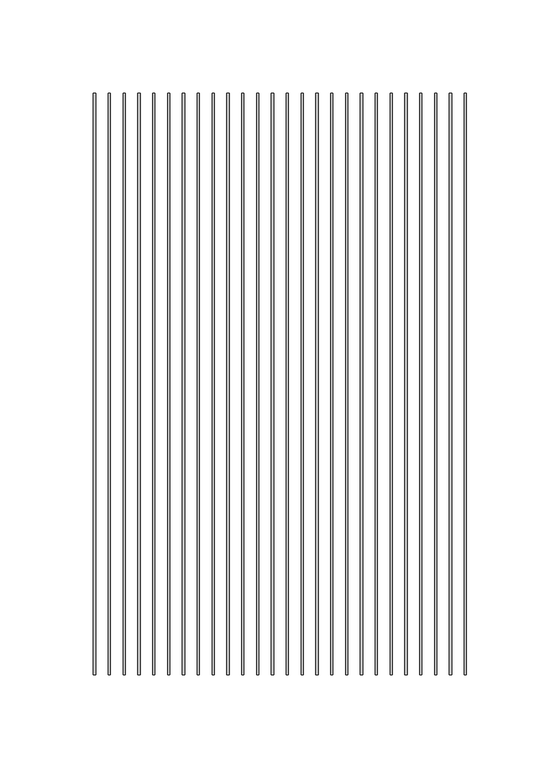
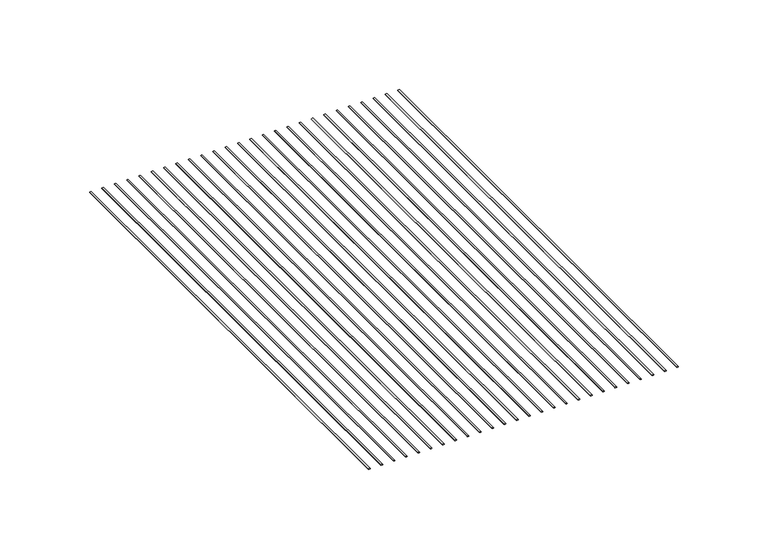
"""IFC4 building model written with IfcOpenShell, lengths in millimetres: proxy geometry, CRAi Generic Model Mesh Piece Face Based : CRAi Generic Model Mesh Piece Face Based."""

from ifc_helpers import new_model, si_unit, point, frame, origin, place, context, project, spatial, ellipse_curve, trimmed, source, transform, mapped, element, save
from ifc_brep_helpers import plane_surface, extruded_surface, advanced_brep


def generic_models_b81d245b(model_context):
    return source(origin(), model_context, "Body", "AdvancedBrep", [
        advanced_brep(
        [(-196.6515625, 155.512111, -2.5796875), (-195.4609375, 155.512111, -2.5796875), (-196.6515625, -155.512111, -2.5796875), (-195.4609375, -155.512111, -2.5796875)],
        [
            (0, 1, ellipse_curve(frame((-196.05625, 155.512111, -2.5796875), z_axis=(0.0, 1.0, 0.0), x_axis=(1.0, 0.0, 0.0)), 0.5953125, 0.1984375)),
            (1, 0, ellipse_curve(frame((-196.05625, 155.512111, -2.5796875), z_axis=(0.0, 1.0, 0.0), x_axis=(1.0, 0.0, 0.0)), 0.5953125, 0.1984375)),
            (2, 3, ellipse_curve(frame((-196.05625, -155.512111, -2.5796875), z_axis=(0.0, -1.0, 0.0), x_axis=(1.0, 0.0, 0.0)), 0.5953125, 0.1984375)),
            (3, 2, ellipse_curve(frame((-196.05625, -155.512111, -2.5796875), z_axis=(0.0, -1.0, 0.0), x_axis=(1.0, 0.0, 0.0)), 0.5953125, 0.1984375)),
            (1, 3),
            (2, 0),
        ],
        [
            plane_surface(frame((-196.05625, 155.512111, -2.5796875), z_axis=(0.0, 1.0, 0.0), x_axis=(0.0, 0.0, 1.0))),
            plane_surface(frame((-196.05625, -155.512111, -2.5796875), z_axis=(0.0, -1.0, 0.0), x_axis=(0.0, 0.0, 1.0))),
            extruded_surface(trimmed(ellipse_curve(frame((-196.05625, 155.512111, -2.5796875), z_axis=(0.0, -1.0, 0.0), x_axis=(1.0, 0.0, 0.0)), 0.5953125, 0.1984375), [point((-196.6515625, 155.512111, -2.5796875))], [point((-195.4609375, 155.512111, -2.5796875))], True, "CARTESIAN"), (0.0, -311.024222, 0.0), 311.024222),
            extruded_surface(trimmed(ellipse_curve(frame((-196.05625, 155.512111, -2.5796875), z_axis=(0.0, -1.0, 0.0), x_axis=(1.0, 0.0, 0.0)), 0.5953125, 0.1984375), [point((-195.4609375, 155.512111, -2.5796875))], [point((-196.6515625, 155.512111, -2.5796875))], True, "CARTESIAN"), (0.0, -311.024222, 0.0), 311.024222),
        ],
        [
            (0, [[1, 2]]),
            (1, [[3, 4]]),
            (2, [[5, -3, 6, -2]]),
            (3, [[-6, -4, -5, -1]]),
        ],
    ),
        advanced_brep(
        [(-188.7140625, 155.512111, -2.5796875), (-187.5234375, 155.512111, -2.5796875), (-188.7140625, -155.512111, -2.5796875), (-187.5234375, -155.512111, -2.5796875)],
        [
            (0, 1, ellipse_curve(frame((-188.11875, 155.512111, -2.5796875), z_axis=(0.0, 1.0, 0.0), x_axis=(1.0, 0.0, 0.0)), 0.5953125, 0.1984375)),
            (1, 0, ellipse_curve(frame((-188.11875, 155.512111, -2.5796875), z_axis=(0.0, 1.0, 0.0), x_axis=(1.0, 0.0, 0.0)), 0.5953125, 0.1984375)),
            (2, 3, ellipse_curve(frame((-188.11875, -155.512111, -2.5796875), z_axis=(0.0, -1.0, 0.0), x_axis=(1.0, 0.0, 0.0)), 0.5953125, 0.1984375)),
            (3, 2, ellipse_curve(frame((-188.11875, -155.512111, -2.5796875), z_axis=(0.0, -1.0, 0.0), x_axis=(1.0, 0.0, 0.0)), 0.5953125, 0.1984375)),
            (1, 3),
            (2, 0),
        ],
        [
            plane_surface(frame((-188.11875, 155.512111, -2.5796875), z_axis=(0.0, 1.0, 0.0), x_axis=(0.0, 0.0, 1.0))),
            plane_surface(frame((-188.11875, -155.512111, -2.5796875), z_axis=(0.0, -1.0, 0.0), x_axis=(0.0, 0.0, 1.0))),
            extruded_surface(trimmed(ellipse_curve(frame((-188.11875, 155.512111, -2.5796875), z_axis=(0.0, -1.0, 0.0), x_axis=(1.0, 0.0, 0.0)), 0.5953125, 0.1984375), [point((-188.7140625, 155.512111, -2.5796875))], [point((-187.5234375, 155.512111, -2.5796875))], True, "CARTESIAN"), (0.0, -311.024222, 0.0), 311.024222),
            extruded_surface(trimmed(ellipse_curve(frame((-188.11875, 155.512111, -2.5796875), z_axis=(0.0, -1.0, 0.0), x_axis=(1.0, 0.0, 0.0)), 0.5953125, 0.1984375), [point((-187.5234375, 155.512111, -2.5796875))], [point((-188.7140625, 155.512111, -2.5796875))], True, "CARTESIAN"), (0.0, -311.024222, 0.0), 311.024222),
        ],
        [
            (0, [[1, 2]]),
            (1, [[3, 4]]),
            (2, [[5, -3, 6, -2]]),
            (3, [[-6, -4, -5, -1]]),
        ],
    ),
        advanced_brep(
        [(-180.7765625, 155.512111, -2.5796875), (-179.5859375, 155.512111, -2.5796875), (-180.7765625, -155.512111, -2.5796875), (-179.5859375, -155.512111, -2.5796875)],
        [
            (0, 1, ellipse_curve(frame((-180.18125, 155.512111, -2.5796875), z_axis=(0.0, 1.0, 0.0), x_axis=(1.0, 0.0, 0.0)), 0.5953125, 0.1984375)),
            (1, 0, ellipse_curve(frame((-180.18125, 155.512111, -2.5796875), z_axis=(0.0, 1.0, 0.0), x_axis=(1.0, 0.0, 0.0)), 0.5953125, 0.1984375)),
            (2, 3, ellipse_curve(frame((-180.18125, -155.512111, -2.5796875), z_axis=(0.0, -1.0, 0.0), x_axis=(1.0, 0.0, 0.0)), 0.5953125, 0.1984375)),
            (3, 2, ellipse_curve(frame((-180.18125, -155.512111, -2.5796875), z_axis=(0.0, -1.0, 0.0), x_axis=(1.0, 0.0, 0.0)), 0.5953125, 0.1984375)),
            (1, 3),
            (2, 0),
        ],
        [
            plane_surface(frame((-180.18125, 155.512111, -2.5796875), z_axis=(0.0, 1.0, 0.0), x_axis=(0.0, 0.0, 1.0))),
            plane_surface(frame((-180.18125, -155.512111, -2.5796875), z_axis=(0.0, -1.0, 0.0), x_axis=(0.0, 0.0, 1.0))),
            extruded_surface(trimmed(ellipse_curve(frame((-180.18125, 155.512111, -2.5796875), z_axis=(0.0, -1.0, 0.0), x_axis=(1.0, 0.0, 0.0)), 0.5953125, 0.1984375), [point((-180.7765625, 155.512111, -2.5796875))], [point((-179.5859375, 155.512111, -2.5796875))], True, "CARTESIAN"), (0.0, -311.024222, 0.0), 311.024222),
            extruded_surface(trimmed(ellipse_curve(frame((-180.18125, 155.512111, -2.5796875), z_axis=(0.0, -1.0, 0.0), x_axis=(1.0, 0.0, 0.0)), 0.5953125, 0.1984375), [point((-179.5859375, 155.512111, -2.5796875))], [point((-180.7765625, 155.512111, -2.5796875))], True, "CARTESIAN"), (0.0, -311.024222, 0.0), 311.024222),
        ],
        [
            (0, [[1, 2]]),
            (1, [[3, 4]]),
            (2, [[5, -3, 6, -2]]),
            (3, [[-6, -4, -5, -1]]),
        ],
    ),
        advanced_brep(
        [(-172.8390625, 155.512111, -2.5796875), (-171.6484375, 155.512111, -2.5796875), (-172.8390625, -155.512111, -2.5796875), (-171.6484375, -155.512111, -2.5796875)],
        [
            (0, 1, ellipse_curve(frame((-172.24375, 155.512111, -2.5796875), z_axis=(0.0, 1.0, 0.0), x_axis=(1.0, 0.0, 0.0)), 0.5953125, 0.1984375)),
            (1, 0, ellipse_curve(frame((-172.24375, 155.512111, -2.5796875), z_axis=(0.0, 1.0, 0.0), x_axis=(1.0, 0.0, 0.0)), 0.5953125, 0.1984375)),
            (2, 3, ellipse_curve(frame((-172.24375, -155.512111, -2.5796875), z_axis=(0.0, -1.0, 0.0), x_axis=(1.0, 0.0, 0.0)), 0.5953125, 0.1984375)),
            (3, 2, ellipse_curve(frame((-172.24375, -155.512111, -2.5796875), z_axis=(0.0, -1.0, 0.0), x_axis=(1.0, 0.0, 0.0)), 0.5953125, 0.1984375)),
            (1, 3),
            (2, 0),
        ],
        [
            plane_surface(frame((-172.24375, 155.512111, -2.5796875), z_axis=(0.0, 1.0, 0.0), x_axis=(0.0, 0.0, 1.0))),
            plane_surface(frame((-172.24375, -155.512111, -2.5796875), z_axis=(0.0, -1.0, 0.0), x_axis=(0.0, 0.0, 1.0))),
            extruded_surface(trimmed(ellipse_curve(frame((-172.24375, 155.512111, -2.5796875), z_axis=(0.0, -1.0, 0.0), x_axis=(1.0, 0.0, 0.0)), 0.5953125, 0.1984375), [point((-172.8390625, 155.512111, -2.5796875))], [point((-171.6484375, 155.512111, -2.5796875))], True, "CARTESIAN"), (0.0, -311.024222, 0.0), 311.024222),
            extruded_surface(trimmed(ellipse_curve(frame((-172.24375, 155.512111, -2.5796875), z_axis=(0.0, -1.0, 0.0), x_axis=(1.0, 0.0, 0.0)), 0.5953125, 0.1984375), [point((-171.6484375, 155.512111, -2.5796875))], [point((-172.8390625, 155.512111, -2.5796875))], True, "CARTESIAN"), (0.0, -311.024222, 0.0), 311.024222),
        ],
        [
            (0, [[1, 2]]),
            (1, [[3, 4]]),
            (2, [[5, -3, 6, -2]]),
            (3, [[-6, -4, -5, -1]]),
        ],
    ),
        advanced_brep(
        [(-164.9015625, 155.512111, -2.5796875), (-163.7109375, 155.512111, -2.5796875), (-164.9015625, -155.512111, -2.5796875), (-163.7109375, -155.512111, -2.5796875)],
        [
            (0, 1, ellipse_curve(frame((-164.30625, 155.512111, -2.5796875), z_axis=(0.0, 1.0, 0.0), x_axis=(1.0, 0.0, 0.0)), 0.5953125, 0.1984375)),
            (1, 0, ellipse_curve(frame((-164.30625, 155.512111, -2.5796875), z_axis=(0.0, 1.0, 0.0), x_axis=(1.0, 0.0, 0.0)), 0.5953125, 0.1984375)),
            (2, 3, ellipse_curve(frame((-164.30625, -155.512111, -2.5796875), z_axis=(0.0, -1.0, 0.0), x_axis=(1.0, 0.0, 0.0)), 0.5953125, 0.1984375)),
            (3, 2, ellipse_curve(frame((-164.30625, -155.512111, -2.5796875), z_axis=(0.0, -1.0, 0.0), x_axis=(1.0, 0.0, 0.0)), 0.5953125, 0.1984375)),
            (1, 3),
            (2, 0),
        ],
        [
            plane_surface(frame((-164.30625, 155.512111, -2.5796875), z_axis=(0.0, 1.0, 0.0), x_axis=(0.0, 0.0, 1.0))),
            plane_surface(frame((-164.30625, -155.512111, -2.5796875), z_axis=(0.0, -1.0, 0.0), x_axis=(0.0, 0.0, 1.0))),
            extruded_surface(trimmed(ellipse_curve(frame((-164.30625, 155.512111, -2.5796875), z_axis=(0.0, -1.0, 0.0), x_axis=(1.0, 0.0, 0.0)), 0.5953125, 0.1984375), [point((-164.9015625, 155.512111, -2.5796875))], [point((-163.7109375, 155.512111, -2.5796875))], True, "CARTESIAN"), (0.0, -311.024222, 0.0), 311.024222),
            extruded_surface(trimmed(ellipse_curve(frame((-164.30625, 155.512111, -2.5796875), z_axis=(0.0, -1.0, 0.0), x_axis=(1.0, 0.0, 0.0)), 0.5953125, 0.1984375), [point((-163.7109375, 155.512111, -2.5796875))], [point((-164.9015625, 155.512111, -2.5796875))], True, "CARTESIAN"), (0.0, -311.024222, 0.0), 311.024222),
        ],
        [
            (0, [[1, 2]]),
            (1, [[3, 4]]),
            (2, [[5, -3, 6, -2]]),
            (3, [[-6, -4, -5, -1]]),
        ],
    ),
        advanced_brep(
        [(-156.9640625, 155.512111, -2.5796875), (-155.7734375, 155.512111, -2.5796875), (-156.9640625, -155.512111, -2.5796875), (-155.7734375, -155.512111, -2.5796875)],
        [
            (0, 1, ellipse_curve(frame((-156.36875, 155.512111, -2.5796875), z_axis=(0.0, 1.0, 0.0), x_axis=(1.0, 0.0, 0.0)), 0.5953125, 0.1984375)),
            (1, 0, ellipse_curve(frame((-156.36875, 155.512111, -2.5796875), z_axis=(0.0, 1.0, 0.0), x_axis=(1.0, 0.0, 0.0)), 0.5953125, 0.1984375)),
            (2, 3, ellipse_curve(frame((-156.36875, -155.512111, -2.5796875), z_axis=(0.0, -1.0, 0.0), x_axis=(1.0, 0.0, 0.0)), 0.5953125, 0.1984375)),
            (3, 2, ellipse_curve(frame((-156.36875, -155.512111, -2.5796875), z_axis=(0.0, -1.0, 0.0), x_axis=(1.0, 0.0, 0.0)), 0.5953125, 0.1984375)),
            (1, 3),
            (2, 0),
        ],
        [
            plane_surface(frame((-156.36875, 155.512111, -2.5796875), z_axis=(0.0, 1.0, 0.0), x_axis=(0.0, 0.0, 1.0))),
            plane_surface(frame((-156.36875, -155.512111, -2.5796875), z_axis=(0.0, -1.0, 0.0), x_axis=(0.0, 0.0, 1.0))),
            extruded_surface(trimmed(ellipse_curve(frame((-156.36875, 155.512111, -2.5796875), z_axis=(0.0, -1.0, 0.0), x_axis=(1.0, 0.0, 0.0)), 0.5953125, 0.1984375), [point((-156.9640625, 155.512111, -2.5796875))], [point((-155.7734375, 155.512111, -2.5796875))], True, "CARTESIAN"), (0.0, -311.024222, 0.0), 311.024222),
            extruded_surface(trimmed(ellipse_curve(frame((-156.36875, 155.512111, -2.5796875), z_axis=(0.0, -1.0, 0.0), x_axis=(1.0, 0.0, 0.0)), 0.5953125, 0.1984375), [point((-155.7734375, 155.512111, -2.5796875))], [point((-156.9640625, 155.512111, -2.5796875))], True, "CARTESIAN"), (0.0, -311.024222, 0.0), 311.024222),
        ],
        [
            (0, [[1, 2]]),
            (1, [[3, 4]]),
            (2, [[5, -3, 6, -2]]),
            (3, [[-6, -4, -5, -1]]),
        ],
    ),
        advanced_brep(
        [(-149.0265625, 155.512111, -2.5796875), (-147.8359375, 155.512111, -2.5796875), (-149.0265625, -155.512111, -2.5796875), (-147.8359375, -155.512111, -2.5796875)],
        [
            (0, 1, ellipse_curve(frame((-148.43125, 155.512111, -2.5796875), z_axis=(0.0, 1.0, 0.0), x_axis=(1.0, 0.0, 0.0)), 0.5953125, 0.1984375)),
            (1, 0, ellipse_curve(frame((-148.43125, 155.512111, -2.5796875), z_axis=(0.0, 1.0, 0.0), x_axis=(1.0, 0.0, 0.0)), 0.5953125, 0.1984375)),
            (2, 3, ellipse_curve(frame((-148.43125, -155.512111, -2.5796875), z_axis=(0.0, -1.0, 0.0), x_axis=(1.0, 0.0, 0.0)), 0.5953125, 0.1984375)),
            (3, 2, ellipse_curve(frame((-148.43125, -155.512111, -2.5796875), z_axis=(0.0, -1.0, 0.0), x_axis=(1.0, 0.0, 0.0)), 0.5953125, 0.1984375)),
            (1, 3),
            (2, 0),
        ],
        [
            plane_surface(frame((-148.43125, 155.512111, -2.5796875), z_axis=(0.0, 1.0, 0.0), x_axis=(0.0, 0.0, 1.0))),
            plane_surface(frame((-148.43125, -155.512111, -2.5796875), z_axis=(0.0, -1.0, 0.0), x_axis=(0.0, 0.0, 1.0))),
            extruded_surface(trimmed(ellipse_curve(frame((-148.43125, 155.512111, -2.5796875), z_axis=(0.0, -1.0, 0.0), x_axis=(1.0, 0.0, 0.0)), 0.5953125, 0.1984375), [point((-149.0265625, 155.512111, -2.5796875))], [point((-147.8359375, 155.512111, -2.5796875))], True, "CARTESIAN"), (0.0, -311.024222, 0.0), 311.024222),
            extruded_surface(trimmed(ellipse_curve(frame((-148.43125, 155.512111, -2.5796875), z_axis=(0.0, -1.0, 0.0), x_axis=(1.0, 0.0, 0.0)), 0.5953125, 0.1984375), [point((-147.8359375, 155.512111, -2.5796875))], [point((-149.0265625, 155.512111, -2.5796875))], True, "CARTESIAN"), (0.0, -311.024222, 0.0), 311.024222),
        ],
        [
            (0, [[1, 2]]),
            (1, [[3, 4]]),
            (2, [[5, -3, 6, -2]]),
            (3, [[-6, -4, -5, -1]]),
        ],
    ),
        advanced_brep(
        [(-141.0890625, 155.512111, -2.5796875), (-139.8984375, 155.512111, -2.5796875), (-141.0890625, -155.512111, -2.5796875), (-139.8984375, -155.512111, -2.5796875)],
        [
            (0, 1, ellipse_curve(frame((-140.49375, 155.512111, -2.5796875), z_axis=(0.0, 1.0, 0.0), x_axis=(1.0, 0.0, 0.0)), 0.5953125, 0.1984375)),
            (1, 0, ellipse_curve(frame((-140.49375, 155.512111, -2.5796875), z_axis=(0.0, 1.0, 0.0), x_axis=(1.0, 0.0, 0.0)), 0.5953125, 0.1984375)),
            (2, 3, ellipse_curve(frame((-140.49375, -155.512111, -2.5796875), z_axis=(0.0, -1.0, 0.0), x_axis=(1.0, 0.0, 0.0)), 0.5953125, 0.1984375)),
            (3, 2, ellipse_curve(frame((-140.49375, -155.512111, -2.5796875), z_axis=(0.0, -1.0, 0.0), x_axis=(1.0, 0.0, 0.0)), 0.5953125, 0.1984375)),
            (1, 3),
            (2, 0),
        ],
        [
            plane_surface(frame((-140.49375, 155.512111, -2.5796875), z_axis=(0.0, 1.0, 0.0), x_axis=(0.0, 0.0, 1.0))),
            plane_surface(frame((-140.49375, -155.512111, -2.5796875), z_axis=(0.0, -1.0, 0.0), x_axis=(0.0, 0.0, 1.0))),
            extruded_surface(trimmed(ellipse_curve(frame((-140.49375, 155.512111, -2.5796875), z_axis=(0.0, -1.0, 0.0), x_axis=(1.0, 0.0, 0.0)), 0.5953125, 0.1984375), [point((-141.0890625, 155.512111, -2.5796875))], [point((-139.8984375, 155.512111, -2.5796875))], True, "CARTESIAN"), (0.0, -311.024222, 0.0), 311.024222),
            extruded_surface(trimmed(ellipse_curve(frame((-140.49375, 155.512111, -2.5796875), z_axis=(0.0, -1.0, 0.0), x_axis=(1.0, 0.0, 0.0)), 0.5953125, 0.1984375), [point((-139.8984375, 155.512111, -2.5796875))], [point((-141.0890625, 155.512111, -2.5796875))], True, "CARTESIAN"), (0.0, -311.024222, 0.0), 311.024222),
        ],
        [
            (0, [[1, 2]]),
            (1, [[3, 4]]),
            (2, [[5, -3, 6, -2]]),
            (3, [[-6, -4, -5, -1]]),
        ],
    ),
        advanced_brep(
        [(-133.1515625, 155.512111, -2.5796875), (-131.9609375, 155.512111, -2.5796875), (-133.1515625, -155.512111, -2.5796875), (-131.9609375, -155.512111, -2.5796875)],
        [
            (0, 1, ellipse_curve(frame((-132.55625, 155.512111, -2.5796875), z_axis=(0.0, 1.0, 0.0), x_axis=(1.0, 0.0, 0.0)), 0.5953125, 0.1984375)),
            (1, 0, ellipse_curve(frame((-132.55625, 155.512111, -2.5796875), z_axis=(0.0, 1.0, 0.0), x_axis=(1.0, 0.0, 0.0)), 0.5953125, 0.1984375)),
            (2, 3, ellipse_curve(frame((-132.55625, -155.512111, -2.5796875), z_axis=(0.0, -1.0, 0.0), x_axis=(1.0, 0.0, 0.0)), 0.5953125, 0.1984375)),
            (3, 2, ellipse_curve(frame((-132.55625, -155.512111, -2.5796875), z_axis=(0.0, -1.0, 0.0), x_axis=(1.0, 0.0, 0.0)), 0.5953125, 0.1984375)),
            (1, 3),
            (2, 0),
        ],
        [
            plane_surface(frame((-132.55625, 155.512111, -2.5796875), z_axis=(0.0, 1.0, 0.0), x_axis=(0.0, 0.0, 1.0))),
            plane_surface(frame((-132.55625, -155.512111, -2.5796875), z_axis=(0.0, -1.0, 0.0), x_axis=(0.0, 0.0, 1.0))),
            extruded_surface(trimmed(ellipse_curve(frame((-132.55625, 155.512111, -2.5796875), z_axis=(0.0, -1.0, 0.0), x_axis=(1.0, 0.0, 0.0)), 0.5953125, 0.1984375), [point((-133.1515625, 155.512111, -2.5796875))], [point((-131.9609375, 155.512111, -2.5796875))], True, "CARTESIAN"), (0.0, -311.024222, 0.0), 311.024222),
            extruded_surface(trimmed(ellipse_curve(frame((-132.55625, 155.512111, -2.5796875), z_axis=(0.0, -1.0, 0.0), x_axis=(1.0, 0.0, 0.0)), 0.5953125, 0.1984375), [point((-131.9609375, 155.512111, -2.5796875))], [point((-133.1515625, 155.512111, -2.5796875))], True, "CARTESIAN"), (0.0, -311.024222, 0.0), 311.024222),
        ],
        [
            (0, [[1, 2]]),
            (1, [[3, 4]]),
            (2, [[5, -3, 6, -2]]),
            (3, [[-6, -4, -5, -1]]),
        ],
    ),
        advanced_brep(
        [(-125.2140625, 155.512111, -2.5796875), (-124.0234375, 155.512111, -2.5796875), (-125.2140625, -155.512111, -2.5796875), (-124.0234375, -155.512111, -2.5796875)],
        [
            (0, 1, ellipse_curve(frame((-124.61875, 155.512111, -2.5796875), z_axis=(0.0, 1.0, 0.0), x_axis=(1.0, 0.0, 0.0)), 0.5953125, 0.1984375)),
            (1, 0, ellipse_curve(frame((-124.61875, 155.512111, -2.5796875), z_axis=(0.0, 1.0, 0.0), x_axis=(1.0, 0.0, 0.0)), 0.5953125, 0.1984375)),
            (2, 3, ellipse_curve(frame((-124.61875, -155.512111, -2.5796875), z_axis=(0.0, -1.0, 0.0), x_axis=(1.0, 0.0, 0.0)), 0.5953125, 0.1984375)),
            (3, 2, ellipse_curve(frame((-124.61875, -155.512111, -2.5796875), z_axis=(0.0, -1.0, 0.0), x_axis=(1.0, 0.0, 0.0)), 0.5953125, 0.1984375)),
            (1, 3),
            (2, 0),
        ],
        [
            plane_surface(frame((-124.61875, 155.512111, -2.5796875), z_axis=(0.0, 1.0, 0.0), x_axis=(0.0, 0.0, 1.0))),
            plane_surface(frame((-124.61875, -155.512111, -2.5796875), z_axis=(0.0, -1.0, 0.0), x_axis=(0.0, 0.0, 1.0))),
            extruded_surface(trimmed(ellipse_curve(frame((-124.61875, 155.512111, -2.5796875), z_axis=(0.0, -1.0, 0.0), x_axis=(1.0, 0.0, 0.0)), 0.5953125, 0.1984375), [point((-125.2140625, 155.512111, -2.5796875))], [point((-124.0234375, 155.512111, -2.5796875))], True, "CARTESIAN"), (0.0, -311.024222, 0.0), 311.024222),
            extruded_surface(trimmed(ellipse_curve(frame((-124.61875, 155.512111, -2.5796875), z_axis=(0.0, -1.0, 0.0), x_axis=(1.0, 0.0, 0.0)), 0.5953125, 0.1984375), [point((-124.0234375, 155.512111, -2.5796875))], [point((-125.2140625, 155.512111, -2.5796875))], True, "CARTESIAN"), (0.0, -311.024222, 0.0), 311.024222),
        ],
        [
            (0, [[1, 2]]),
            (1, [[3, 4]]),
            (2, [[5, -3, 6, -2]]),
            (3, [[-6, -4, -5, -1]]),
        ],
    ),
        advanced_brep(
        [(-117.2765625, 155.512111, -2.5796875), (-116.0859375, 155.512111, -2.5796875), (-117.2765625, -155.512111, -2.5796875), (-116.0859375, -155.512111, -2.5796875)],
        [
            (0, 1, ellipse_curve(frame((-116.68125, 155.512111, -2.5796875), z_axis=(0.0, 1.0, 0.0), x_axis=(1.0, 0.0, 0.0)), 0.5953125, 0.1984375)),
            (1, 0, ellipse_curve(frame((-116.68125, 155.512111, -2.5796875), z_axis=(0.0, 1.0, 0.0), x_axis=(1.0, 0.0, 0.0)), 0.5953125, 0.1984375)),
            (2, 3, ellipse_curve(frame((-116.68125, -155.512111, -2.5796875), z_axis=(0.0, -1.0, 0.0), x_axis=(1.0, 0.0, 0.0)), 0.5953125, 0.1984375)),
            (3, 2, ellipse_curve(frame((-116.68125, -155.512111, -2.5796875), z_axis=(0.0, -1.0, 0.0), x_axis=(1.0, 0.0, 0.0)), 0.5953125, 0.1984375)),
            (1, 3),
            (2, 0),
        ],
        [
            plane_surface(frame((-116.68125, 155.512111, -2.5796875), z_axis=(0.0, 1.0, 0.0), x_axis=(0.0, 0.0, 1.0))),
            plane_surface(frame((-116.68125, -155.512111, -2.5796875), z_axis=(0.0, -1.0, 0.0), x_axis=(0.0, 0.0, 1.0))),
            extruded_surface(trimmed(ellipse_curve(frame((-116.68125, 155.512111, -2.5796875), z_axis=(0.0, -1.0, 0.0), x_axis=(1.0, 0.0, 0.0)), 0.5953125, 0.1984375), [point((-117.2765625, 155.512111, -2.5796875))], [point((-116.0859375, 155.512111, -2.5796875))], True, "CARTESIAN"), (0.0, -311.024222, 0.0), 311.024222),
            extruded_surface(trimmed(ellipse_curve(frame((-116.68125, 155.512111, -2.5796875), z_axis=(0.0, -1.0, 0.0), x_axis=(1.0, 0.0, 0.0)), 0.5953125, 0.1984375), [point((-116.0859375, 155.512111, -2.5796875))], [point((-117.2765625, 155.512111, -2.5796875))], True, "CARTESIAN"), (0.0, -311.024222, 0.0), 311.024222),
        ],
        [
            (0, [[1, 2]]),
            (1, [[3, 4]]),
            (2, [[5, -3, 6, -2]]),
            (3, [[-6, -4, -5, -1]]),
        ],
    ),
        advanced_brep(
        [(-109.3390625, 155.512111, -2.5796875), (-108.1484375, 155.512111, -2.5796875), (-109.3390625, -155.512111, -2.5796875), (-108.1484375, -155.512111, -2.5796875)],
        [
            (0, 1, ellipse_curve(frame((-108.74375, 155.512111, -2.5796875), z_axis=(0.0, 1.0, 0.0), x_axis=(1.0, 0.0, 0.0)), 0.5953125, 0.1984375)),
            (1, 0, ellipse_curve(frame((-108.74375, 155.512111, -2.5796875), z_axis=(0.0, 1.0, 0.0), x_axis=(1.0, 0.0, 0.0)), 0.5953125, 0.1984375)),
            (2, 3, ellipse_curve(frame((-108.74375, -155.512111, -2.5796875), z_axis=(0.0, -1.0, 0.0), x_axis=(1.0, 0.0, 0.0)), 0.5953125, 0.1984375)),
            (3, 2, ellipse_curve(frame((-108.74375, -155.512111, -2.5796875), z_axis=(0.0, -1.0, 0.0), x_axis=(1.0, 0.0, 0.0)), 0.5953125, 0.1984375)),
            (1, 3),
            (2, 0),
        ],
        [
            plane_surface(frame((-108.74375, 155.512111, -2.5796875), z_axis=(0.0, 1.0, 0.0), x_axis=(0.0, 0.0, 1.0))),
            plane_surface(frame((-108.74375, -155.512111, -2.5796875), z_axis=(0.0, -1.0, 0.0), x_axis=(0.0, 0.0, 1.0))),
            extruded_surface(trimmed(ellipse_curve(frame((-108.74375, 155.512111, -2.5796875), z_axis=(0.0, -1.0, 0.0), x_axis=(1.0, 0.0, 0.0)), 0.5953125, 0.1984375), [point((-109.3390625, 155.512111, -2.5796875))], [point((-108.1484375, 155.512111, -2.5796875))], True, "CARTESIAN"), (0.0, -311.024222, 0.0), 311.024222),
            extruded_surface(trimmed(ellipse_curve(frame((-108.74375, 155.512111, -2.5796875), z_axis=(0.0, -1.0, 0.0), x_axis=(1.0, 0.0, 0.0)), 0.5953125, 0.1984375), [point((-108.1484375, 155.512111, -2.5796875))], [point((-109.3390625, 155.512111, -2.5796875))], True, "CARTESIAN"), (0.0, -311.024222, 0.0), 311.024222),
        ],
        [
            (0, [[1, 2]]),
            (1, [[3, 4]]),
            (2, [[5, -3, 6, -2]]),
            (3, [[-6, -4, -5, -1]]),
        ],
    ),
        advanced_brep(
        [(-101.4015625, 155.512111, -2.5796875), (-100.2109375, 155.512111, -2.5796875), (-101.4015625, -155.512111, -2.5796875), (-100.2109375, -155.512111, -2.5796875)],
        [
            (0, 1, ellipse_curve(frame((-100.80625, 155.512111, -2.5796875), z_axis=(0.0, 1.0, 0.0), x_axis=(1.0, 0.0, 0.0)), 0.5953125, 0.1984375)),
            (1, 0, ellipse_curve(frame((-100.80625, 155.512111, -2.5796875), z_axis=(0.0, 1.0, 0.0), x_axis=(1.0, 0.0, 0.0)), 0.5953125, 0.1984375)),
            (2, 3, ellipse_curve(frame((-100.80625, -155.512111, -2.5796875), z_axis=(0.0, -1.0, 0.0), x_axis=(1.0, 0.0, 0.0)), 0.5953125, 0.1984375)),
            (3, 2, ellipse_curve(frame((-100.80625, -155.512111, -2.5796875), z_axis=(0.0, -1.0, 0.0), x_axis=(1.0, 0.0, 0.0)), 0.5953125, 0.1984375)),
            (1, 3),
            (2, 0),
        ],
        [
            plane_surface(frame((-100.80625, 155.512111, -2.5796875), z_axis=(0.0, 1.0, 0.0), x_axis=(0.0, 0.0, 1.0))),
            plane_surface(frame((-100.80625, -155.512111, -2.5796875), z_axis=(0.0, -1.0, 0.0), x_axis=(0.0, 0.0, 1.0))),
            extruded_surface(trimmed(ellipse_curve(frame((-100.80625, 155.512111, -2.5796875), z_axis=(0.0, -1.0, 0.0), x_axis=(1.0, 0.0, 0.0)), 0.5953125, 0.1984375), [point((-101.4015625, 155.512111, -2.5796875))], [point((-100.2109375, 155.512111, -2.5796875))], True, "CARTESIAN"), (0.0, -311.024222, 0.0), 311.024222),
            extruded_surface(trimmed(ellipse_curve(frame((-100.80625, 155.512111, -2.5796875), z_axis=(0.0, -1.0, 0.0), x_axis=(1.0, 0.0, 0.0)), 0.5953125, 0.1984375), [point((-100.2109375, 155.512111, -2.5796875))], [point((-101.4015625, 155.512111, -2.5796875))], True, "CARTESIAN"), (0.0, -311.024222, 0.0), 311.024222),
        ],
        [
            (0, [[1, 2]]),
            (1, [[3, 4]]),
            (2, [[5, -3, 6, -2]]),
            (3, [[-6, -4, -5, -1]]),
        ],
    ),
        advanced_brep(
        [(-93.4640625, 155.512111, -2.5796875), (-92.2734375, 155.512111, -2.5796875), (-93.4640625, -155.512111, -2.5796875), (-92.2734375, -155.512111, -2.5796875)],
        [
            (0, 1, ellipse_curve(frame((-92.86875, 155.512111, -2.5796875), z_axis=(0.0, 1.0, 0.0), x_axis=(1.0, 0.0, 0.0)), 0.5953125, 0.1984375)),
            (1, 0, ellipse_curve(frame((-92.86875, 155.512111, -2.5796875), z_axis=(0.0, 1.0, 0.0), x_axis=(1.0, 0.0, 0.0)), 0.5953125, 0.1984375)),
            (2, 3, ellipse_curve(frame((-92.86875, -155.512111, -2.5796875), z_axis=(0.0, -1.0, 0.0), x_axis=(1.0, 0.0, 0.0)), 0.5953125, 0.1984375)),
            (3, 2, ellipse_curve(frame((-92.86875, -155.512111, -2.5796875), z_axis=(0.0, -1.0, 0.0), x_axis=(1.0, 0.0, 0.0)), 0.5953125, 0.1984375)),
            (1, 3),
            (2, 0),
        ],
        [
            plane_surface(frame((-92.86875, 155.512111, -2.5796875), z_axis=(0.0, 1.0, 0.0), x_axis=(0.0, 0.0, 1.0))),
            plane_surface(frame((-92.86875, -155.512111, -2.5796875), z_axis=(0.0, -1.0, 0.0), x_axis=(0.0, 0.0, 1.0))),
            extruded_surface(trimmed(ellipse_curve(frame((-92.86875, 155.512111, -2.5796875), z_axis=(0.0, -1.0, 0.0), x_axis=(1.0, 0.0, 0.0)), 0.5953125, 0.1984375), [point((-93.4640625, 155.512111, -2.5796875))], [point((-92.2734375, 155.512111, -2.5796875))], True, "CARTESIAN"), (0.0, -311.024222, 0.0), 311.024222),
            extruded_surface(trimmed(ellipse_curve(frame((-92.86875, 155.512111, -2.5796875), z_axis=(0.0, -1.0, 0.0), x_axis=(1.0, 0.0, 0.0)), 0.5953125, 0.1984375), [point((-92.2734375, 155.512111, -2.5796875))], [point((-93.4640625, 155.512111, -2.5796875))], True, "CARTESIAN"), (0.0, -311.024222, 0.0), 311.024222),
        ],
        [
            (0, [[1, 2]]),
            (1, [[3, 4]]),
            (2, [[5, -3, 6, -2]]),
            (3, [[-6, -4, -5, -1]]),
        ],
    ),
        advanced_brep(
        [(-85.5265625, 155.512111, -2.5796875), (-84.3359375, 155.512111, -2.5796875), (-85.5265625, -155.512111, -2.5796875), (-84.3359375, -155.512111, -2.5796875)],
        [
            (0, 1, ellipse_curve(frame((-84.93125, 155.512111, -2.5796875), z_axis=(0.0, 1.0, 0.0), x_axis=(1.0, 0.0, 0.0)), 0.5953125, 0.1984375)),
            (1, 0, ellipse_curve(frame((-84.93125, 155.512111, -2.5796875), z_axis=(0.0, 1.0, 0.0), x_axis=(1.0, 0.0, 0.0)), 0.5953125, 0.1984375)),
            (2, 3, ellipse_curve(frame((-84.93125, -155.512111, -2.5796875), z_axis=(0.0, -1.0, 0.0), x_axis=(1.0, 0.0, 0.0)), 0.5953125, 0.1984375)),
            (3, 2, ellipse_curve(frame((-84.93125, -155.512111, -2.5796875), z_axis=(0.0, -1.0, 0.0), x_axis=(1.0, 0.0, 0.0)), 0.5953125, 0.1984375)),
            (1, 3),
            (2, 0),
        ],
        [
            plane_surface(frame((-84.93125, 155.512111, -2.5796875), z_axis=(0.0, 1.0, 0.0), x_axis=(0.0, 0.0, 1.0))),
            plane_surface(frame((-84.93125, -155.512111, -2.5796875), z_axis=(0.0, -1.0, 0.0), x_axis=(0.0, 0.0, 1.0))),
            extruded_surface(trimmed(ellipse_curve(frame((-84.93125, 155.512111, -2.5796875), z_axis=(0.0, -1.0, 0.0), x_axis=(1.0, 0.0, 0.0)), 0.5953125, 0.1984375), [point((-85.5265625, 155.512111, -2.5796875))], [point((-84.3359375, 155.512111, -2.5796875))], True, "CARTESIAN"), (0.0, -311.024222, 0.0), 311.024222),
            extruded_surface(trimmed(ellipse_curve(frame((-84.93125, 155.512111, -2.5796875), z_axis=(0.0, -1.0, 0.0), x_axis=(1.0, 0.0, 0.0)), 0.5953125, 0.1984375), [point((-84.3359375, 155.512111, -2.5796875))], [point((-85.5265625, 155.512111, -2.5796875))], True, "CARTESIAN"), (0.0, -311.024222, 0.0), 311.024222),
        ],
        [
            (0, [[1, 2]]),
            (1, [[3, 4]]),
            (2, [[5, -3, 6, -2]]),
            (3, [[-6, -4, -5, -1]]),
        ],
    ),
        advanced_brep(
        [(-77.5890625, 155.512111, -2.5796875), (-76.3984375, 155.512111, -2.5796875), (-77.5890625, -155.512111, -2.5796875), (-76.3984375, -155.512111, -2.5796875)],
        [
            (0, 1, ellipse_curve(frame((-76.99375, 155.512111, -2.5796875), z_axis=(0.0, 1.0, 0.0), x_axis=(1.0, 0.0, 0.0)), 0.5953125, 0.1984375)),
            (1, 0, ellipse_curve(frame((-76.99375, 155.512111, -2.5796875), z_axis=(0.0, 1.0, 0.0), x_axis=(1.0, 0.0, 0.0)), 0.5953125, 0.1984375)),
            (2, 3, ellipse_curve(frame((-76.99375, -155.512111, -2.5796875), z_axis=(0.0, -1.0, 0.0), x_axis=(1.0, 0.0, 0.0)), 0.5953125, 0.1984375)),
            (3, 2, ellipse_curve(frame((-76.99375, -155.512111, -2.5796875), z_axis=(0.0, -1.0, 0.0), x_axis=(1.0, 0.0, 0.0)), 0.5953125, 0.1984375)),
            (1, 3),
            (2, 0),
        ],
        [
            plane_surface(frame((-76.99375, 155.512111, -2.5796875), z_axis=(0.0, 1.0, 0.0), x_axis=(0.0, 0.0, 1.0))),
            plane_surface(frame((-76.99375, -155.512111, -2.5796875), z_axis=(0.0, -1.0, 0.0), x_axis=(0.0, 0.0, 1.0))),
            extruded_surface(trimmed(ellipse_curve(frame((-76.99375, 155.512111, -2.5796875), z_axis=(0.0, -1.0, 0.0), x_axis=(1.0, 0.0, 0.0)), 0.5953125, 0.1984375), [point((-77.5890625, 155.512111, -2.5796875))], [point((-76.3984375, 155.512111, -2.5796875))], True, "CARTESIAN"), (0.0, -311.024222, 0.0), 311.024222),
            extruded_surface(trimmed(ellipse_curve(frame((-76.99375, 155.512111, -2.5796875), z_axis=(0.0, -1.0, 0.0), x_axis=(1.0, 0.0, 0.0)), 0.5953125, 0.1984375), [point((-76.3984375, 155.512111, -2.5796875))], [point((-77.5890625, 155.512111, -2.5796875))], True, "CARTESIAN"), (0.0, -311.024222, 0.0), 311.024222),
        ],
        [
            (0, [[1, 2]]),
            (1, [[3, 4]]),
            (2, [[5, -3, 6, -2]]),
            (3, [[-6, -4, -5, -1]]),
        ],
    ),
        advanced_brep(
        [(-69.6515625, 155.512111, -2.5796875), (-68.4609375, 155.512111, -2.5796875), (-69.6515625, -155.512111, -2.5796875), (-68.4609375, -155.512111, -2.5796875)],
        [
            (0, 1, ellipse_curve(frame((-69.05625, 155.512111, -2.5796875), z_axis=(0.0, 1.0, 0.0), x_axis=(1.0, 0.0, 0.0)), 0.5953125, 0.1984375)),
            (1, 0, ellipse_curve(frame((-69.05625, 155.512111, -2.5796875), z_axis=(0.0, 1.0, 0.0), x_axis=(1.0, 0.0, 0.0)), 0.5953125, 0.1984375)),
            (2, 3, ellipse_curve(frame((-69.05625, -155.512111, -2.5796875), z_axis=(0.0, -1.0, 0.0), x_axis=(1.0, 0.0, 0.0)), 0.5953125, 0.1984375)),
            (3, 2, ellipse_curve(frame((-69.05625, -155.512111, -2.5796875), z_axis=(0.0, -1.0, 0.0), x_axis=(1.0, 0.0, 0.0)), 0.5953125, 0.1984375)),
            (1, 3),
            (2, 0),
        ],
        [
            plane_surface(frame((-69.05625, 155.512111, -2.5796875), z_axis=(0.0, 1.0, 0.0), x_axis=(0.0, 0.0, 1.0))),
            plane_surface(frame((-69.05625, -155.512111, -2.5796875), z_axis=(0.0, -1.0, 0.0), x_axis=(0.0, 0.0, 1.0))),
            extruded_surface(trimmed(ellipse_curve(frame((-69.05625, 155.512111, -2.5796875), z_axis=(0.0, -1.0, 0.0), x_axis=(1.0, 0.0, 0.0)), 0.5953125, 0.1984375), [point((-69.6515625, 155.512111, -2.5796875))], [point((-68.4609375, 155.512111, -2.5796875))], True, "CARTESIAN"), (0.0, -311.024222, 0.0), 311.024222),
            extruded_surface(trimmed(ellipse_curve(frame((-69.05625, 155.512111, -2.5796875), z_axis=(0.0, -1.0, 0.0), x_axis=(1.0, 0.0, 0.0)), 0.5953125, 0.1984375), [point((-68.4609375, 155.512111, -2.5796875))], [point((-69.6515625, 155.512111, -2.5796875))], True, "CARTESIAN"), (0.0, -311.024222, 0.0), 311.024222),
        ],
        [
            (0, [[1, 2]]),
            (1, [[3, 4]]),
            (2, [[5, -3, 6, -2]]),
            (3, [[-6, -4, -5, -1]]),
        ],
    ),
        advanced_brep(
        [(-61.7140625, 155.512111, -2.5796875), (-60.5234375, 155.512111, -2.5796875), (-61.7140625, -155.512111, -2.5796875), (-60.5234375, -155.512111, -2.5796875)],
        [
            (0, 1, ellipse_curve(frame((-61.11875, 155.512111, -2.5796875), z_axis=(0.0, 1.0, 0.0), x_axis=(1.0, 0.0, 0.0)), 0.5953125, 0.1984375)),
            (1, 0, ellipse_curve(frame((-61.11875, 155.512111, -2.5796875), z_axis=(0.0, 1.0, 0.0), x_axis=(1.0, 0.0, 0.0)), 0.5953125, 0.1984375)),
            (2, 3, ellipse_curve(frame((-61.11875, -155.512111, -2.5796875), z_axis=(0.0, -1.0, 0.0), x_axis=(1.0, 0.0, 0.0)), 0.5953125, 0.1984375)),
            (3, 2, ellipse_curve(frame((-61.11875, -155.512111, -2.5796875), z_axis=(0.0, -1.0, 0.0), x_axis=(1.0, 0.0, 0.0)), 0.5953125, 0.1984375)),
            (1, 3),
            (2, 0),
        ],
        [
            plane_surface(frame((-61.11875, 155.512111, -2.5796875), z_axis=(0.0, 1.0, 0.0), x_axis=(0.0, 0.0, 1.0))),
            plane_surface(frame((-61.11875, -155.512111, -2.5796875), z_axis=(0.0, -1.0, 0.0), x_axis=(0.0, 0.0, 1.0))),
            extruded_surface(trimmed(ellipse_curve(frame((-61.11875, 155.512111, -2.5796875), z_axis=(0.0, -1.0, 0.0), x_axis=(1.0, 0.0, 0.0)), 0.5953125, 0.1984375), [point((-61.7140625, 155.512111, -2.5796875))], [point((-60.5234375, 155.512111, -2.5796875))], True, "CARTESIAN"), (0.0, -311.024222, 0.0), 311.024222),
            extruded_surface(trimmed(ellipse_curve(frame((-61.11875, 155.512111, -2.5796875), z_axis=(0.0, -1.0, 0.0), x_axis=(1.0, 0.0, 0.0)), 0.5953125, 0.1984375), [point((-60.5234375, 155.512111, -2.5796875))], [point((-61.7140625, 155.512111, -2.5796875))], True, "CARTESIAN"), (0.0, -311.024222, 0.0), 311.024222),
        ],
        [
            (0, [[1, 2]]),
            (1, [[3, 4]]),
            (2, [[5, -3, 6, -2]]),
            (3, [[-6, -4, -5, -1]]),
        ],
    ),
        advanced_brep(
        [(-53.7765625, 155.512111, -2.5796875), (-52.5859375, 155.512111, -2.5796875), (-53.7765625, -155.512111, -2.5796875), (-52.5859375, -155.512111, -2.5796875)],
        [
            (0, 1, ellipse_curve(frame((-53.18125, 155.512111, -2.5796875), z_axis=(0.0, 1.0, 0.0), x_axis=(1.0, 0.0, 0.0)), 0.5953125, 0.1984375)),
            (1, 0, ellipse_curve(frame((-53.18125, 155.512111, -2.5796875), z_axis=(0.0, 1.0, 0.0), x_axis=(1.0, 0.0, 0.0)), 0.5953125, 0.1984375)),
            (2, 3, ellipse_curve(frame((-53.18125, -155.512111, -2.5796875), z_axis=(0.0, -1.0, 0.0), x_axis=(1.0, 0.0, 0.0)), 0.5953125, 0.1984375)),
            (3, 2, ellipse_curve(frame((-53.18125, -155.512111, -2.5796875), z_axis=(0.0, -1.0, 0.0), x_axis=(1.0, 0.0, 0.0)), 0.5953125, 0.1984375)),
            (1, 3),
            (2, 0),
        ],
        [
            plane_surface(frame((-53.18125, 155.512111, -2.5796875), z_axis=(0.0, 1.0, 0.0), x_axis=(0.0, 0.0, 1.0))),
            plane_surface(frame((-53.18125, -155.512111, -2.5796875), z_axis=(0.0, -1.0, 0.0), x_axis=(0.0, 0.0, 1.0))),
            extruded_surface(trimmed(ellipse_curve(frame((-53.18125, 155.512111, -2.5796875), z_axis=(0.0, -1.0, 0.0), x_axis=(1.0, 0.0, 0.0)), 0.5953125, 0.1984375), [point((-53.7765625, 155.512111, -2.5796875))], [point((-52.5859375, 155.512111, -2.5796875))], True, "CARTESIAN"), (0.0, -311.024222, 0.0), 311.024222),
            extruded_surface(trimmed(ellipse_curve(frame((-53.18125, 155.512111, -2.5796875), z_axis=(0.0, -1.0, 0.0), x_axis=(1.0, 0.0, 0.0)), 0.5953125, 0.1984375), [point((-52.5859375, 155.512111, -2.5796875))], [point((-53.7765625, 155.512111, -2.5796875))], True, "CARTESIAN"), (0.0, -311.024222, 0.0), 311.024222),
        ],
        [
            (0, [[1, 2]]),
            (1, [[3, 4]]),
            (2, [[5, -3, 6, -2]]),
            (3, [[-6, -4, -5, -1]]),
        ],
    ),
        advanced_brep(
        [(-45.8390625, 155.512111, -2.5796875), (-44.6484375, 155.512111, -2.5796875), (-45.8390625, -155.512111, -2.5796875), (-44.6484375, -155.512111, -2.5796875)],
        [
            (0, 1, ellipse_curve(frame((-45.24375, 155.512111, -2.5796875), z_axis=(0.0, 1.0, 0.0), x_axis=(1.0, 0.0, 0.0)), 0.5953125, 0.1984375)),
            (1, 0, ellipse_curve(frame((-45.24375, 155.512111, -2.5796875), z_axis=(0.0, 1.0, 0.0), x_axis=(1.0, 0.0, 0.0)), 0.5953125, 0.1984375)),
            (2, 3, ellipse_curve(frame((-45.24375, -155.512111, -2.5796875), z_axis=(0.0, -1.0, 0.0), x_axis=(1.0, 0.0, 0.0)), 0.5953125, 0.1984375)),
            (3, 2, ellipse_curve(frame((-45.24375, -155.512111, -2.5796875), z_axis=(0.0, -1.0, 0.0), x_axis=(1.0, 0.0, 0.0)), 0.5953125, 0.1984375)),
            (1, 3),
            (2, 0),
        ],
        [
            plane_surface(frame((-45.24375, 155.512111, -2.5796875), z_axis=(0.0, 1.0, 0.0), x_axis=(0.0, 0.0, 1.0))),
            plane_surface(frame((-45.24375, -155.512111, -2.5796875), z_axis=(0.0, -1.0, 0.0), x_axis=(0.0, 0.0, 1.0))),
            extruded_surface(trimmed(ellipse_curve(frame((-45.24375, 155.512111, -2.5796875), z_axis=(0.0, -1.0, 0.0), x_axis=(1.0, 0.0, 0.0)), 0.5953125, 0.1984375), [point((-45.8390625, 155.512111, -2.5796875))], [point((-44.6484375, 155.512111, -2.5796875))], True, "CARTESIAN"), (0.0, -311.024222, 0.0), 311.024222),
            extruded_surface(trimmed(ellipse_curve(frame((-45.24375, 155.512111, -2.5796875), z_axis=(0.0, -1.0, 0.0), x_axis=(1.0, 0.0, 0.0)), 0.5953125, 0.1984375), [point((-44.6484375, 155.512111, -2.5796875))], [point((-45.8390625, 155.512111, -2.5796875))], True, "CARTESIAN"), (0.0, -311.024222, 0.0), 311.024222),
        ],
        [
            (0, [[1, 2]]),
            (1, [[3, 4]]),
            (2, [[5, -3, 6, -2]]),
            (3, [[-6, -4, -5, -1]]),
        ],
    ),
        advanced_brep(
        [(-37.9015625, 155.512111, -2.5796875), (-36.7109375, 155.512111, -2.5796875), (-37.9015625, -155.512111, -2.5796875), (-36.7109375, -155.512111, -2.5796875)],
        [
            (0, 1, ellipse_curve(frame((-37.30625, 155.512111, -2.5796875), z_axis=(0.0, 1.0, 0.0), x_axis=(1.0, 0.0, 0.0)), 0.5953125, 0.1984375)),
            (1, 0, ellipse_curve(frame((-37.30625, 155.512111, -2.5796875), z_axis=(0.0, 1.0, 0.0), x_axis=(1.0, 0.0, 0.0)), 0.5953125, 0.1984375)),
            (2, 3, ellipse_curve(frame((-37.30625, -155.512111, -2.5796875), z_axis=(0.0, -1.0, 0.0), x_axis=(1.0, 0.0, 0.0)), 0.5953125, 0.1984375)),
            (3, 2, ellipse_curve(frame((-37.30625, -155.512111, -2.5796875), z_axis=(0.0, -1.0, 0.0), x_axis=(1.0, 0.0, 0.0)), 0.5953125, 0.1984375)),
            (1, 3),
            (2, 0),
        ],
        [
            plane_surface(frame((-37.30625, 155.512111, -2.5796875), z_axis=(0.0, 1.0, 0.0), x_axis=(0.0, 0.0, 1.0))),
            plane_surface(frame((-37.30625, -155.512111, -2.5796875), z_axis=(0.0, -1.0, 0.0), x_axis=(0.0, 0.0, 1.0))),
            extruded_surface(trimmed(ellipse_curve(frame((-37.30625, 155.512111, -2.5796875), z_axis=(0.0, -1.0, 0.0), x_axis=(1.0, 0.0, 0.0)), 0.5953125, 0.1984375), [point((-37.9015625, 155.512111, -2.5796875))], [point((-36.7109375, 155.512111, -2.5796875))], True, "CARTESIAN"), (0.0, -311.024222, 0.0), 311.024222),
            extruded_surface(trimmed(ellipse_curve(frame((-37.30625, 155.512111, -2.5796875), z_axis=(0.0, -1.0, 0.0), x_axis=(1.0, 0.0, 0.0)), 0.5953125, 0.1984375), [point((-36.7109375, 155.512111, -2.5796875))], [point((-37.9015625, 155.512111, -2.5796875))], True, "CARTESIAN"), (0.0, -311.024222, 0.0), 311.024222),
        ],
        [
            (0, [[1, 2]]),
            (1, [[3, 4]]),
            (2, [[5, -3, 6, -2]]),
            (3, [[-6, -4, -5, -1]]),
        ],
    ),
        advanced_brep(
        [(-29.9640625, 155.512111, -2.5796875), (-28.7734375, 155.512111, -2.5796875), (-29.9640625, -155.512111, -2.5796875), (-28.7734375, -155.512111, -2.5796875)],
        [
            (0, 1, ellipse_curve(frame((-29.36875, 155.512111, -2.5796875), z_axis=(0.0, 1.0, 0.0), x_axis=(1.0, 0.0, 0.0)), 0.5953125, 0.1984375)),
            (1, 0, ellipse_curve(frame((-29.36875, 155.512111, -2.5796875), z_axis=(0.0, 1.0, 0.0), x_axis=(1.0, 0.0, 0.0)), 0.5953125, 0.1984375)),
            (2, 3, ellipse_curve(frame((-29.36875, -155.512111, -2.5796875), z_axis=(0.0, -1.0, 0.0), x_axis=(1.0, 0.0, 0.0)), 0.5953125, 0.1984375)),
            (3, 2, ellipse_curve(frame((-29.36875, -155.512111, -2.5796875), z_axis=(0.0, -1.0, 0.0), x_axis=(1.0, 0.0, 0.0)), 0.5953125, 0.1984375)),
            (1, 3),
            (2, 0),
        ],
        [
            plane_surface(frame((-29.36875, 155.512111, -2.5796875), z_axis=(0.0, 1.0, 0.0), x_axis=(0.0, 0.0, 1.0))),
            plane_surface(frame((-29.36875, -155.512111, -2.5796875), z_axis=(0.0, -1.0, 0.0), x_axis=(0.0, 0.0, 1.0))),
            extruded_surface(trimmed(ellipse_curve(frame((-29.36875, 155.512111, -2.5796875), z_axis=(0.0, -1.0, 0.0), x_axis=(1.0, 0.0, 0.0)), 0.5953125, 0.1984375), [point((-29.9640625, 155.512111, -2.5796875))], [point((-28.7734375, 155.512111, -2.5796875))], True, "CARTESIAN"), (0.0, -311.024222, 0.0), 311.024222),
            extruded_surface(trimmed(ellipse_curve(frame((-29.36875, 155.512111, -2.5796875), z_axis=(0.0, -1.0, 0.0), x_axis=(1.0, 0.0, 0.0)), 0.5953125, 0.1984375), [point((-28.7734375, 155.512111, -2.5796875))], [point((-29.9640625, 155.512111, -2.5796875))], True, "CARTESIAN"), (0.0, -311.024222, 0.0), 311.024222),
        ],
        [
            (0, [[1, 2]]),
            (1, [[3, 4]]),
            (2, [[5, -3, 6, -2]]),
            (3, [[-6, -4, -5, -1]]),
        ],
    ),
        advanced_brep(
        [(-22.0265625, 155.512111, -2.5796875), (-20.8359375, 155.512111, -2.5796875), (-22.0265625, -155.512111, -2.5796875), (-20.8359375, -155.512111, -2.5796875)],
        [
            (0, 1, ellipse_curve(frame((-21.43125, 155.512111, -2.5796875), z_axis=(0.0, 1.0, 0.0), x_axis=(1.0, 0.0, 0.0)), 0.5953125, 0.1984375)),
            (1, 0, ellipse_curve(frame((-21.43125, 155.512111, -2.5796875), z_axis=(0.0, 1.0, 0.0), x_axis=(1.0, 0.0, 0.0)), 0.5953125, 0.1984375)),
            (2, 3, ellipse_curve(frame((-21.43125, -155.512111, -2.5796875), z_axis=(0.0, -1.0, 0.0), x_axis=(1.0, 0.0, 0.0)), 0.5953125, 0.1984375)),
            (3, 2, ellipse_curve(frame((-21.43125, -155.512111, -2.5796875), z_axis=(0.0, -1.0, 0.0), x_axis=(1.0, 0.0, 0.0)), 0.5953125, 0.1984375)),
            (1, 3),
            (2, 0),
        ],
        [
            plane_surface(frame((-21.43125, 155.512111, -2.5796875), z_axis=(0.0, 1.0, 0.0), x_axis=(0.0, 0.0, 1.0))),
            plane_surface(frame((-21.43125, -155.512111, -2.5796875), z_axis=(0.0, -1.0, 0.0), x_axis=(0.0, 0.0, 1.0))),
            extruded_surface(trimmed(ellipse_curve(frame((-21.43125, 155.512111, -2.5796875), z_axis=(0.0, -1.0, 0.0), x_axis=(1.0, 0.0, 0.0)), 0.5953125, 0.1984375), [point((-22.0265625, 155.512111, -2.5796875))], [point((-20.8359375, 155.512111, -2.5796875))], True, "CARTESIAN"), (0.0, -311.024222, 0.0), 311.024222),
            extruded_surface(trimmed(ellipse_curve(frame((-21.43125, 155.512111, -2.5796875), z_axis=(0.0, -1.0, 0.0), x_axis=(1.0, 0.0, 0.0)), 0.5953125, 0.1984375), [point((-20.8359375, 155.512111, -2.5796875))], [point((-22.0265625, 155.512111, -2.5796875))], True, "CARTESIAN"), (0.0, -311.024222, 0.0), 311.024222),
        ],
        [
            (0, [[1, 2]]),
            (1, [[3, 4]]),
            (2, [[5, -3, 6, -2]]),
            (3, [[-6, -4, -5, -1]]),
        ],
    ),
        advanced_brep(
        [(-14.0890625, 155.512111, -2.5796875), (-12.8984375, 155.512111, -2.5796875), (-14.0890625, -155.512111, -2.5796875), (-12.8984375, -155.512111, -2.5796875)],
        [
            (0, 1, ellipse_curve(frame((-13.49375, 155.512111, -2.5796875), z_axis=(0.0, 1.0, 0.0), x_axis=(1.0, 0.0, 0.0)), 0.5953125, 0.1984375)),
            (1, 0, ellipse_curve(frame((-13.49375, 155.512111, -2.5796875), z_axis=(0.0, 1.0, 0.0), x_axis=(1.0, 0.0, 0.0)), 0.5953125, 0.1984375)),
            (2, 3, ellipse_curve(frame((-13.49375, -155.512111, -2.5796875), z_axis=(0.0, -1.0, 0.0), x_axis=(1.0, 0.0, 0.0)), 0.5953125, 0.1984375)),
            (3, 2, ellipse_curve(frame((-13.49375, -155.512111, -2.5796875), z_axis=(0.0, -1.0, 0.0), x_axis=(1.0, 0.0, 0.0)), 0.5953125, 0.1984375)),
            (1, 3),
            (2, 0),
        ],
        [
            plane_surface(frame((-13.49375, 155.512111, -2.5796875), z_axis=(0.0, 1.0, 0.0), x_axis=(0.0, 0.0, 1.0))),
            plane_surface(frame((-13.49375, -155.512111, -2.5796875), z_axis=(0.0, -1.0, 0.0), x_axis=(0.0, 0.0, 1.0))),
            extruded_surface(trimmed(ellipse_curve(frame((-13.49375, 155.512111, -2.5796875), z_axis=(0.0, -1.0, 0.0), x_axis=(1.0, 0.0, 0.0)), 0.5953125, 0.1984375), [point((-14.0890625, 155.512111, -2.5796875))], [point((-12.8984375, 155.512111, -2.5796875))], True, "CARTESIAN"), (0.0, -311.024222, 0.0), 311.024222),
            extruded_surface(trimmed(ellipse_curve(frame((-13.49375, 155.512111, -2.5796875), z_axis=(0.0, -1.0, 0.0), x_axis=(1.0, 0.0, 0.0)), 0.5953125, 0.1984375), [point((-12.8984375, 155.512111, -2.5796875))], [point((-14.0890625, 155.512111, -2.5796875))], True, "CARTESIAN"), (0.0, -311.024222, 0.0), 311.024222),
        ],
        [
            (0, [[1, 2]]),
            (1, [[3, 4]]),
            (2, [[5, -3, 6, -2]]),
            (3, [[-6, -4, -5, -1]]),
        ],
    ),
        advanced_brep(
        [(-6.1515625, 155.512111, -2.5796875), (-4.9609375, 155.512111, -2.5796875), (-6.1515625, -155.512111, -2.5796875), (-4.9609375, -155.512111, -2.5796875)],
        [
            (0, 1, ellipse_curve(frame((-5.55625, 155.512111, -2.5796875), z_axis=(0.0, 1.0, 0.0), x_axis=(1.0, 0.0, 0.0)), 0.5953125, 0.1984375)),
            (1, 0, ellipse_curve(frame((-5.55625, 155.512111, -2.5796875), z_axis=(0.0, 1.0, 0.0), x_axis=(1.0, 0.0, 0.0)), 0.5953125, 0.1984375)),
            (2, 3, ellipse_curve(frame((-5.55625, -155.512111, -2.5796875), z_axis=(0.0, -1.0, 0.0), x_axis=(1.0, 0.0, 0.0)), 0.5953125, 0.1984375)),
            (3, 2, ellipse_curve(frame((-5.55625, -155.512111, -2.5796875), z_axis=(0.0, -1.0, 0.0), x_axis=(1.0, 0.0, 0.0)), 0.5953125, 0.1984375)),
            (1, 3),
            (2, 0),
        ],
        [
            plane_surface(frame((-5.55625, 155.512111, -2.5796875), z_axis=(0.0, 1.0, 0.0), x_axis=(0.0, 0.0, 1.0))),
            plane_surface(frame((-5.55625, -155.512111, -2.5796875), z_axis=(0.0, -1.0, 0.0), x_axis=(0.0, 0.0, 1.0))),
            extruded_surface(trimmed(ellipse_curve(frame((-5.55625, 155.512111, -2.5796875), z_axis=(0.0, -1.0, 0.0), x_axis=(1.0, 0.0, 0.0)), 0.5953125, 0.1984375), [point((-6.1515625, 155.512111, -2.5796875))], [point((-4.9609375, 155.512111, -2.5796875))], True, "CARTESIAN"), (0.0, -311.024222, 0.0), 311.024222),
            extruded_surface(trimmed(ellipse_curve(frame((-5.55625, 155.512111, -2.5796875), z_axis=(0.0, -1.0, 0.0), x_axis=(1.0, 0.0, 0.0)), 0.5953125, 0.1984375), [point((-4.9609375, 155.512111, -2.5796875))], [point((-6.1515625, 155.512111, -2.5796875))], True, "CARTESIAN"), (0.0, -311.024222, 0.0), 311.024222),
        ],
        [
            (0, [[1, 2]]),
            (1, [[3, 4]]),
            (2, [[5, -3, 6, -2]]),
            (3, [[-6, -4, -5, -1]]),
        ],
    ),
        advanced_brep(
        [(1.7859375, 155.512111, -2.5796875), (2.9765625, 155.512111, -2.5796875), (1.7859375, -155.512111, -2.5796875), (2.9765625, -155.512111, -2.5796875)],
        [
            (0, 1, ellipse_curve(frame((2.38125, 155.512111, -2.5796875), z_axis=(0.0, 1.0, 0.0), x_axis=(1.0, 0.0, 0.0)), 0.5953125, 0.1984375)),
            (1, 0, ellipse_curve(frame((2.38125, 155.512111, -2.5796875), z_axis=(0.0, 1.0, 0.0), x_axis=(1.0, 0.0, 0.0)), 0.5953125, 0.1984375)),
            (2, 3, ellipse_curve(frame((2.38125, -155.512111, -2.5796875), z_axis=(0.0, -1.0, 0.0), x_axis=(1.0, 0.0, 0.0)), 0.5953125, 0.1984375)),
            (3, 2, ellipse_curve(frame((2.38125, -155.512111, -2.5796875), z_axis=(0.0, -1.0, 0.0), x_axis=(1.0, 0.0, 0.0)), 0.5953125, 0.1984375)),
            (1, 3),
            (2, 0),
        ],
        [
            plane_surface(frame((2.38125, 155.512111, -2.5796875), z_axis=(0.0, 1.0, 0.0), x_axis=(0.0, 0.0, 1.0))),
            plane_surface(frame((2.38125, -155.512111, -2.5796875), z_axis=(0.0, -1.0, 0.0), x_axis=(0.0, 0.0, 1.0))),
            extruded_surface(trimmed(ellipse_curve(frame((2.38125, 155.512111, -2.5796875), z_axis=(0.0, -1.0, 0.0), x_axis=(1.0, 0.0, 0.0)), 0.5953125, 0.1984375), [point((1.7859375, 155.512111, -2.5796875))], [point((2.9765625, 155.512111, -2.5796875))], True, "CARTESIAN"), (0.0, -311.024222, 0.0), 311.024222),
            extruded_surface(trimmed(ellipse_curve(frame((2.38125, 155.512111, -2.5796875), z_axis=(0.0, -1.0, 0.0), x_axis=(1.0, 0.0, 0.0)), 0.5953125, 0.1984375), [point((2.9765625, 155.512111, -2.5796875))], [point((1.7859375, 155.512111, -2.5796875))], True, "CARTESIAN"), (0.0, -311.024222, 0.0), 311.024222),
        ],
        [
            (0, [[1, 2]]),
            (1, [[3, 4]]),
            (2, [[5, -3, 6, -2]]),
            (3, [[-6, -4, -5, -1]]),
        ],
    ),
    ])


if __name__ == "__main__":
    model = new_model("IFC4")
    model_context = context("Model", 3, world=origin())
    ifc_project = project(units=[si_unit("LENGTHUNIT", "METRE", prefix="MILLI")], contexts=[model_context])
    site = spatial("IfcSite", under=ifc_project)
    building = spatial("IfcBuilding", under=site)
    placement = place(None, origin())
    generic_models_shape = generic_models_b81d245b(model_context)
    element("IfcBuildingElementProxy", 1, Name="CRAi Generic Model Mesh Piece Face Based : CRAi Generic Model Mesh Piece Face Based", ObjectType="CRAi Generic Model Mesh Piece Face Based : CRAi Generic Model Mesh Piece Face Based", at=placement, inside=building, context=model_context, shape_type="MappedRepresentation", body=[
        mapped(generic_models_shape, transform((0.0, 0.0, 0.0), x_axis=(1.0, 0.0, 0.0), y_axis=(0.0, 1.0, 0.0), z_axis=(0.0, 0.0, 1.0))),
    ])
    save(model, "model.ifc")
